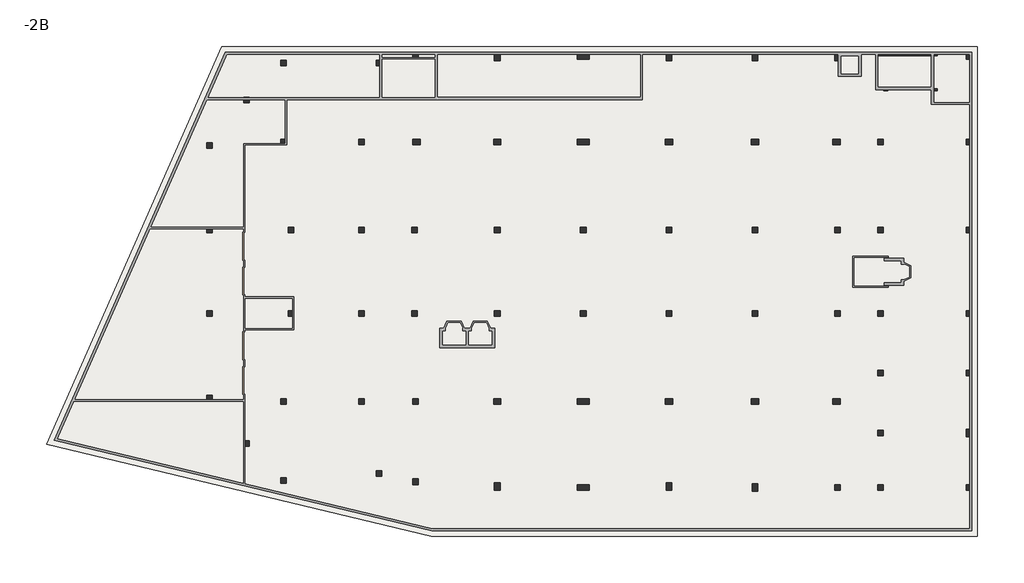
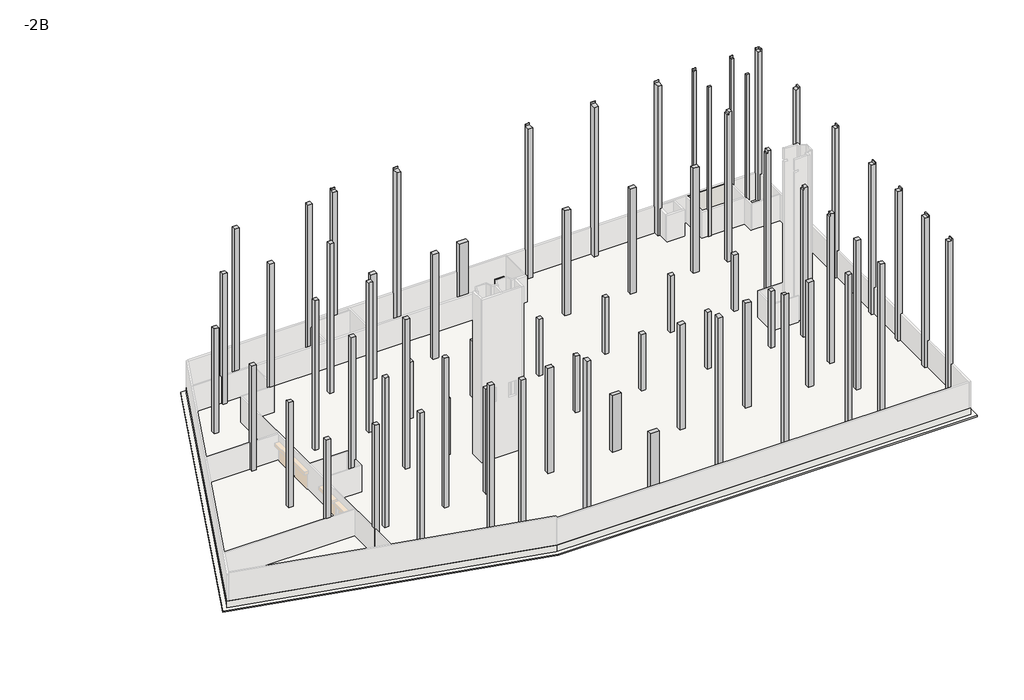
# One storey, part 2 of 2: 71 columns, 2 slabs, 1 wall.
"""IFC4 building model written with IfcOpenShell, lengths in millimetres."""

from ifc_helpers import new_model, si_unit, frame, origin, place, context, project, spatial, polyline, outline, extrude, faceted_brep, transform, mapped, element, save
from components import concrete_rectangular_column_600x600_795a6e5d, concrete_rectangular_column_600x600_80d3ca89, concrete_rectangular_column_c10_1275_x_600_91d06403

model = new_model("IFC4")

# Units and contexts
model_context = context("Model", 3, world=origin())
ifc_project = project(units=[si_unit("LENGTHUNIT", "METRE", prefix="MILLI")], contexts=[model_context])

# Site, building, storey
site = spatial("IfcSite", under=ifc_project)
building = spatial("IfcBuilding", under=site)
storey = spatial("IfcBuildingStorey", under=building, Name="-2B", Elevation=-7500.0)

# Columns
placement = place(None, origin())
element("IfcColumn", 1, ObjectType="Concrete-Rectangular-Column : 230x450", at=placement, inside=storey, context=model_context, shape_type="SweptSolid", body=[
    extrude(outline(polyline([(21247.3851347, -7500.0), (21017.3851347, -7500.0), (21017.3851347, 14725.0), (21235.3851347, 14725.0), (21235.3851347, 15000.0), (21247.3851347, 15000.0), (21247.3851347, -7500.0)])), frame((33532.4134101, 0.0, 0.0), z_axis=(1.0, 0.0, 0.0), x_axis=(0.0, 1.0, 0.0)), (0.0, 0.0, 1.0), 450.0),
])
element("IfcColumn", 2, ObjectType="Concrete-Rectangular-Column : 230x450", at=placement, inside=storey, context=model_context, shape_type="SweptSolid", body=[
    extrude(outline(polyline([(33447.4134101, 17452.3851348), (33897.4134101, 17452.3851348), (33897.4134101, 17222.3851348), (33447.4134101, 17222.3851348), (33447.4134101, 17452.3851348)])), frame((0.0, 0.0, -7500.0), z_axis=(0.0, 0.0, 1.0), x_axis=(1.0, 0.0, 0.0)), (0.0, 0.0, 1.0), 22225.0),
])
element("IfcColumn", 3, ObjectType="Concrete-Rectangular-Column : 230x450", at=placement, inside=storey, context=model_context, shape_type="SweptSolid", body=[
    extrude(outline(polyline([(21247.3851347, -7500.0), (21017.3851347, -7500.0), (21017.3851347, 14725.0), (21235.3851347, 14725.0), (21235.3851347, 15000.0), (21247.3851347, 15000.0), (21247.3851347, -7500.0)])), frame((38782.4134101, 0.0, 0.0), z_axis=(1.0, 0.0, 0.0), x_axis=(0.0, 1.0, 0.0)), (0.0, 0.0, 1.0), 450.0),
])
element("IfcColumn", 4, ObjectType="Concrete-Rectangular-Column : 230x450", at=placement, inside=storey, context=model_context, shape_type="SweptSolid", body=[
    extrude(outline(polyline([(38782.4134101, 17452.3851348), (39232.4134101, 17452.3851348), (39232.4134101, 17222.3851348), (38782.4134101, 17222.3851348), (38782.4134101, 17452.3851348)])), frame((0.0, 0.0, -7500.0), z_axis=(0.0, 0.0, 1.0), x_axis=(1.0, 0.0, 0.0)), (0.0, 0.0, 1.0), 22225.0),
])
element("IfcColumn", 5, ObjectType="Concrete-Rectangular-Column : 600x600", at=placement, inside=storey, context=model_context, shape_type="SweptSolid", body=[
    extrude(outline(polyline([(-7500.0, 42362.4134101), (-7500.0, 42962.4134101), (15000.0, 42962.4134101), (15000.0, 42824.4134101), (14725.0, 42824.4134101), (14725.0, 42362.4134101), (-7500.0, 42362.4134101)])), frame((0.0, -13522.6148653, 0.0), z_axis=(0.0, 1.0, 0.0), x_axis=(0.0, 0.0, 1.0)), (0.0, 0.0, 1.0), 600.0),
])
element("IfcColumn", 6, ObjectType="Concrete-Rectangular-Column : 600x600", at=placement, inside=storey, context=model_context, shape_type="SweptSolid", body=[
    extrude(outline(polyline([(-7500.0, 42362.4134101), (-7500.0, 42962.4134101), (15000.0, 42962.4134101), (15000.0, 42824.4134101), (14725.0, 42824.4134101), (14725.0, 42362.4134101), (-7500.0, 42362.4134101)])), frame((0.0, -7072.6148653, 0.0), z_axis=(0.0, 1.0, 0.0), x_axis=(0.0, 0.0, 1.0)), (0.0, 0.0, 1.0), 600.0),
])
element("IfcColumn", 7, ObjectType="Concrete-Rectangular-Column : 600x600", at=placement, inside=storey, context=model_context, shape_type="SweptSolid", body=[
    extrude(outline(polyline([(-7500.0, 42362.4134101), (-7500.0, 42962.4134101), (15000.0, 42962.4134101), (15000.0, 42824.4134101), (14725.0, 42824.4134101), (14725.0, 42362.4134101), (-7500.0, 42362.4134101)])), frame((0.0, 1897.3851347, 0.0), z_axis=(0.0, 1.0, 0.0), x_axis=(0.0, 0.0, 1.0)), (0.0, 0.0, 1.0), 600.0),
])
element("IfcColumn", 8, ObjectType="Concrete-Rectangular-Column : 600x600", at=placement, inside=storey, context=model_context, shape_type="SweptSolid", body=[
    extrude(outline(polyline([(-7500.0, 42362.4134101), (-7500.0, 42962.4134101), (15000.0, 42962.4134101), (15000.0, 42824.4134101), (14725.0, 42824.4134101), (14725.0, 42362.4134101), (-7500.0, 42362.4134101)])), frame((0.0, 11397.3851347, 0.0), z_axis=(0.0, 1.0, 0.0), x_axis=(0.0, 0.0, 1.0)), (0.0, 0.0, 1.0), 600.0),
])
element("IfcColumn", 9, ObjectType="Concrete-Rectangular-Column : 600x600", at=placement, inside=storey, context=model_context, shape_type="Brep", body=[
    faceted_brep([(33387.4134101, -12922.6148653, -7500.0), (33387.4134101, -13522.6148653, -7500.0), (32787.4134101, -13522.6148653, -7500.0), (32787.4134101, -12922.6148653, -7500.0), (32787.4134101, -12922.6148653, 14375.0), (32950.4134101, -12922.6148653, 14375.0), (32950.4134101, -12922.6148653, 14725.0), (32962.4134101, -12922.6148653, 14725.0), (33312.4134101, -12922.6148653, 14725.0), (33387.4134101, -12922.6148653, 14725.0), (32787.4134101, -13522.6148653, 14375.0), (33387.4134101, -13522.6148653, 14725.0), (33312.4134101, -13522.6148653, 14725.0), (32962.4134101, -13522.6148653, 14725.0), (32950.4134101, -13522.6148653, 14725.0), (32950.4134101, -13522.6148653, 14375.0)], [[[0, 1, 2, 3]], [[0, 3, 4, 5, 6, 7, 8, 9]], [[3, 2, 10, 4]], [[2, 1, 11, 12, 13, 14, 15, 10]], [[1, 0, 9, 11]], [[9, 8, 7, 6, 14, 13, 12, 11]], [[5, 15, 14, 6]], [[15, 5, 4, 10]]]),
])
element("IfcColumn", 10, ObjectType="Concrete-Rectangular-Column : 600x600", at=placement, inside=storey, context=model_context, shape_type="Brep", body=[
    faceted_brep([(33387.4134101, -6472.6148653, -7500.0), (33387.4134101, -7072.6148653, -7500.0), (32787.4134101, -7072.6148653, -7500.0), (32787.4134101, -6472.6148653, -7500.0), (32787.4134101, -6472.6148653, 14375.0), (32950.4134101, -6472.6148653, 14375.0), (32950.4134101, -6472.6148653, 14725.0), (32962.4134101, -6472.6148653, 14725.0), (33312.4134101, -6472.6148653, 14725.0), (33387.4134101, -6472.6148653, 14725.0), (32787.4134101, -7072.6148653, 14375.0), (33387.4134101, -7072.6148653, 14725.0), (33312.4134101, -7072.6148653, 14725.0), (32962.4134101, -7072.6148653, 14725.0), (32950.4134101, -7072.6148653, 14725.0), (32950.4134101, -7072.6148653, 14375.0)], [[[0, 1, 2, 3]], [[0, 3, 4, 5, 6, 7, 8, 9]], [[3, 2, 10, 4]], [[2, 1, 11, 12, 13, 14, 15, 10]], [[1, 0, 9, 11]], [[9, 8, 7, 6, 14, 13, 12, 11]], [[5, 15, 14, 6]], [[15, 5, 4, 10]]]),
])
element("IfcColumn", 11, ObjectType="Concrete-Rectangular-Column : 600x600", at=placement, inside=storey, context=model_context, shape_type="Brep", body=[
    faceted_brep([(33387.4134101, 11997.3851347, -7500.0), (33387.4134101, 11397.3851347, -7500.0), (32787.4134101, 11397.3851347, -7500.0), (32787.4134101, 11997.3851347, -7500.0), (32787.4134101, 11997.3851347, 14375.0), (32950.4134101, 11997.3851347, 14375.0), (32950.4134101, 11997.3851347, 14725.0), (32962.4134101, 11997.3851347, 14725.0), (33312.4134101, 11997.3851347, 14725.0), (33387.4134101, 11997.3851347, 14725.0), (32787.4134101, 11397.3851347, 14375.0), (33387.4134101, 11397.3851347, 14725.0), (33312.4134101, 11397.3851347, 14725.0), (32962.4134101, 11397.3851347, 14725.0), (32950.4134101, 11397.3851347, 14725.0), (32950.4134101, 11397.3851347, 14375.0)], [[[0, 1, 2, 3]], [[0, 3, 4, 5, 6, 7, 8, 9]], [[3, 2, 10, 4]], [[2, 1, 11, 12, 13, 14, 15, 10]], [[1, 0, 9, 11]], [[9, 8, 7, 6, 14, 13, 12, 11]], [[5, 15, 14, 6]], [[15, 5, 4, 10]]]),
])
element("IfcColumn", 12, ObjectType="Concrete-Rectangular-Column : 600x600", at=placement, inside=storey, context=model_context, shape_type="SweptSolid", body=[
    extrude(outline(polyline([(28787.4134101, -6472.6148653), (28787.4134101, -7072.6148653), (28187.4134101, -7072.6148653), (28187.4134101, -6472.6148653), (28787.4134101, -6472.6148653)])), frame((0.0, 0.0, -7500.0), z_axis=(0.0, 0.0, 1.0), x_axis=(1.0, 0.0, 0.0)), (0.0, 0.0, 1.0), 8400.0),
])
element("IfcColumn", 13, ObjectType="Concrete-Rectangular-Column : 600x600", at=placement, inside=storey, context=model_context, shape_type="SweptSolid", body=[
    extrude(outline(polyline([(28787.4134101, 2497.3851347), (28787.4134101, 1897.3851347), (28187.4134101, 1897.3851347), (28187.4134101, 2497.3851347), (28787.4134101, 2497.3851347)])), frame((0.0, 0.0, -7500.0), z_axis=(0.0, 0.0, 1.0), x_axis=(1.0, 0.0, 0.0)), (0.0, 0.0, 1.0), 8400.0),
])
element("IfcColumn", 14, ObjectType="Concrete-Rectangular-Column : 600x600", at=placement, inside=storey, context=model_context, shape_type="SweptSolid", body=[
    extrude(outline(polyline([(19857.4134101, -6472.6148653), (19857.4134101, -7072.6148653), (19257.4134101, -7072.6148653), (19257.4134101, -6472.6148653), (19857.4134101, -6472.6148653)])), frame((0.0, 0.0, -7500.0), z_axis=(0.0, 0.0, 1.0), x_axis=(1.0, 0.0, 0.0)), (0.0, 0.0, 1.0), 8400.0),
])
element("IfcColumn", 15, ObjectType="Concrete-Rectangular-Column : 600x600", at=placement, inside=storey, context=model_context, shape_type="SweptSolid", body=[
    extrude(outline(polyline([(19857.4134101, 2497.3851347), (19857.4134101, 1897.3851347), (19257.4134101, 1897.3851347), (19257.4134101, 2497.3851347), (19857.4134101, 2497.3851347)])), frame((0.0, 0.0, -7500.0), z_axis=(0.0, 0.0, 1.0), x_axis=(1.0, 0.0, 0.0)), (0.0, 0.0, 1.0), 8400.0),
])
element("IfcColumn", 16, ObjectType="Concrete-Rectangular-Column : 600x600", at=placement, inside=storey, context=model_context, shape_type="SweptSolid", body=[
    extrude(outline(polyline([(10627.4134101, 2497.3851347), (10627.4134101, 1897.3851347), (10027.4134101, 1897.3851347), (10027.4134101, 2497.3851347), (10627.4134101, 2497.3851347)])), frame((0.0, 0.0, -7500.0), z_axis=(0.0, 0.0, 1.0), x_axis=(1.0, 0.0, 0.0)), (0.0, 0.0, 1.0), 8400.0),
])
element("IfcColumn", 17, ObjectType="Concrete-Rectangular-Column : 600x600", at=placement, inside=storey, context=model_context, shape_type="SweptSolid", body=[
    extrude(outline(polyline([(-16722.5865899, -24622.6148653), (-16722.5865899, -25222.6148653), (-17322.5865899, -25222.6148653), (-17322.5865899, -24622.6148653), (-16722.5865899, -24622.6148653)])), frame((0.0, 0.0, -7500.0), z_axis=(0.0, 0.0, 1.0), x_axis=(1.0, 0.0, 0.0)), (0.0, 0.0, 1.0), 22225.0),
])
element("IfcColumn", 18, ObjectType="Concrete-Rectangular-Column : 600x600", at=placement, inside=storey, context=model_context, shape_type="Brep", body=[
    faceted_brep([(-16722.5865899, -15972.6148653, 8100.0), (-17322.5865899, -15972.6148653, 8100.0), (-17322.5865899, -16322.6148653, 8100.0), (-17322.5865899, -16572.6148653, 8100.0), (-16722.5865899, -16572.6148653, 8100.0), (-16722.5865899, -16322.6148653, 8100.0), (-16722.5865899, -15972.6148653, -7500.0), (-16722.5865899, -16572.6148653, -7500.0), (-17322.5865899, -16572.6148653, -7500.0), (-17322.5865899, -15972.6148653, -7500.0), (-16722.5865899, -15972.6148653, 7550.0), (-17322.5865899, -15972.6148653, 7550.0)], [[[0, 1, 2, 3, 4, 5]], [[6, 7, 8, 9]], [[1, 0, 10, 6, 9, 11]], [[3, 2, 1, 11, 9, 8]], [[4, 3, 8, 7]], [[0, 5, 4, 7, 6, 10]]]),
])
element("IfcColumn", 19, ObjectType="Concrete-Rectangular-Column : 600x600", at=placement, inside=storey, context=model_context, shape_type="SweptSolid", body=[
    extrude(outline(polyline([(21267.3851347, -7500.0), (20667.3851347, -7500.0), (20667.3851347, 14725.0), (21235.3851347, 14725.0), (21235.3851347, 15000.0), (21267.3851347, 15000.0), (21267.3851347, -7500.0)])), frame((-17322.5865899, 0.0, 0.0), z_axis=(1.0, 0.0, 0.0), x_axis=(0.0, 1.0, 0.0)), (0.0, 0.0, 1.0), 600.0),
])
element("IfcColumn", 20, ObjectType="Concrete-Rectangular-Column : 600x600", at=placement, inside=storey, context=model_context, shape_type="SweptSolid", body=[
    extrude(outline(polyline([(-20652.5865899, -23747.6148653), (-20652.5865899, -24347.6148653), (-21252.5865899, -24347.6148653), (-21252.5865899, -23747.6148653), (-20652.5865899, -23747.6148653)])), frame((0.0, 0.0, -7500.0), z_axis=(0.0, 0.0, 1.0), x_axis=(1.0, 0.0, 0.0)), (0.0, 0.0, 1.0), 22225.0),
])
element("IfcColumn", 21, ObjectType="Concrete-Rectangular-Column : 600x600", at=placement, inside=storey, context=model_context, shape_type="Brep", body=[
    faceted_brep([(-22537.5865899, 11997.3851347, -7500.0), (-22537.5865899, 11397.3851347, -7500.0), (-23137.5865899, 11397.3851347, -7500.0), (-23137.5865899, 11997.3851347, -7500.0), (-23137.5865899, 11997.3851347, 14725.0), (-22887.5865899, 11997.3851347, 14725.0), (-22537.5865899, 11997.3851347, 14725.0), (-22537.5865899, 11997.3851347, 14375.0), (-23137.5865899, 11397.3851347, 14725.0), (-22537.5865899, 11397.3851347, 14375.0), (-22537.5865899, 11397.3851347, 14725.0), (-22887.5865899, 11397.3851347, 14725.0)], [[[0, 1, 2, 3]], [[0, 3, 4, 5, 6, 7]], [[3, 2, 8, 4]], [[2, 1, 9, 10, 11, 8]], [[1, 0, 7, 6, 10, 9]], [[6, 5, 4, 8, 11, 10]]]),
])
element("IfcColumn", 22, ObjectType="Concrete-Rectangular-Column : 600x600", at=placement, inside=storey, context=model_context, shape_type="SweptSolid", body=[
    extrude(outline(polyline([(-20652.5865899, 20522.3851347), (-20652.5865899, 19922.3851347), (-21252.5865899, 19922.3851347), (-21252.5865899, 20522.3851347), (-20652.5865899, 20522.3851347)])), frame((0.0, 0.0, -7500.0), z_axis=(0.0, 0.0, 1.0), x_axis=(1.0, 0.0, 0.0)), (0.0, 0.0, 1.0), 22225.0),
])
element("IfcColumn", 23, ObjectType="Concrete-Rectangular-Column : 600x600", at=placement, inside=storey, context=model_context, shape_type="Brep", body=[
    faceted_brep([(-22537.5865899, -15972.6148653, -7500.0), (-22537.5865899, -16572.6148653, -7500.0), (-23137.5865899, -16572.6148653, -7500.0), (-23137.5865899, -15972.6148653, -7500.0), (-23137.5865899, -15972.6148653, 14725.0), (-22887.5865899, -15972.6148653, 14725.0), (-22537.5865899, -15972.6148653, 14725.0), (-22537.5865899, -15972.6148653, 14375.0), (-23137.5865899, -16572.6148653, 14725.0), (-22537.5865899, -16572.6148653, 14375.0), (-22537.5865899, -16572.6148653, 14725.0), (-22887.5865899, -16572.6148653, 14725.0)], [[[0, 1, 2, 3]], [[0, 3, 4, 5, 6, 7]], [[3, 2, 8, 4]], [[2, 1, 9, 10, 11, 8]], [[1, 0, 7, 6, 10, 9]], [[6, 5, 4, 8, 11, 10]]]),
])
element("IfcColumn", 24, ObjectType="Concrete-Rectangular-Column : 600x600", at=placement, inside=storey, context=model_context, shape_type="Brep", body=[
    faceted_brep([(-22537.5865899, -6472.6148653, -7500.0), (-22537.5865899, -7072.6148653, -7500.0), (-23137.5865899, -7072.6148653, -7500.0), (-23137.5865899, -6472.6148653, -7500.0), (-23137.5865899, -6472.6148653, 14725.0), (-22887.5865899, -6472.6148653, 14725.0), (-22537.5865899, -6472.6148653, 14725.0), (-22537.5865899, -6472.6148653, 14375.0), (-23137.5865899, -7072.6148653, 14725.0), (-22537.5865899, -7072.6148653, 14375.0), (-22537.5865899, -7072.6148653, 14725.0), (-22887.5865899, -7072.6148653, 14725.0)], [[[0, 1, 2, 3]], [[0, 3, 4, 5, 6, 7]], [[3, 2, 8, 4]], [[2, 1, 9, 10, 11, 8]], [[1, 0, 7, 6, 10, 9]], [[6, 5, 4, 8, 11, 10]]]),
])
element("IfcColumn", 25, ObjectType="Concrete-Rectangular-Column : 600x600", at=placement, inside=storey, context=model_context, shape_type="Brep", body=[
    faceted_brep([(-22537.5865899, 2497.3851347, -7500.0), (-22537.5865899, 1897.3851347, -7500.0), (-23137.5865899, 1897.3851347, -7500.0), (-23137.5865899, 2497.3851347, -7500.0), (-23137.5865899, 2497.3851347, 14725.0), (-22887.5865899, 2497.3851347, 14725.0), (-22537.5865899, 2497.3851347, 14725.0), (-22537.5865899, 2497.3851347, 14375.0), (-23137.5865899, 1897.3851347, 14725.0), (-22537.5865899, 1897.3851347, 14375.0), (-22537.5865899, 1897.3851347, 14725.0), (-22887.5865899, 1897.3851347, 14725.0)], [[[0, 1, 2, 3]], [[0, 3, 4, 5, 6, 7]], [[3, 2, 8, 4]], [[2, 1, 9, 10, 11, 8]], [[1, 0, 7, 6, 10, 9]], [[6, 5, 4, 8, 11, 10]]]),
])
element("IfcColumn", 26, ObjectType="Concrete-Rectangular-Column : 600x600", at=placement, inside=storey, context=model_context, shape_type="SweptSolid", body=[
    extrude(outline(polyline([(-30937.5865899, -24497.6148653), (-30937.5865899, -25097.6148653), (-31537.5865899, -25097.6148653), (-31537.5865899, -24497.6148653), (-30937.5865899, -24497.6148653)])), frame((0.0, 0.0, -7500.0), z_axis=(0.0, 0.0, 1.0), x_axis=(1.0, 0.0, 0.0)), (0.0, 0.0, 1.0), 22225.0),
])
element("IfcColumn", 27, ObjectType="Concrete-Rectangular-Column : 600x600", at=placement, inside=storey, context=model_context, shape_type="SweptSolid", body=[
    extrude(outline(polyline([(-30937.5865899, -15972.6148653), (-30937.5865899, -16572.6148653), (-31537.5865899, -16572.6148653), (-31537.5865899, -15972.6148653), (-30937.5865899, -15972.6148653)])), frame((0.0, 0.0, -7500.0), z_axis=(0.0, 0.0, 1.0), x_axis=(1.0, 0.0, 0.0)), (0.0, 0.0, 1.0), 22225.0),
])
element("IfcColumn", 28, ObjectType="Concrete-Rectangular-Column : 600x600", at=placement, inside=storey, context=model_context, shape_type="SweptSolid", body=[
    extrude(outline(polyline([(-30137.5865899, -6472.6148653), (-30137.5865899, -7072.6148653), (-30737.5865899, -7072.6148653), (-30737.5865899, -6472.6148653), (-30137.5865899, -6472.6148653)])), frame((0.0, 0.0, -7500.0), z_axis=(0.0, 0.0, 1.0), x_axis=(1.0, 0.0, 0.0)), (0.0, 0.0, 1.0), 22225.0),
])
element("IfcColumn", 29, ObjectType="Concrete-Rectangular-Column : 600x600", at=placement, inside=storey, context=model_context, shape_type="SweptSolid", body=[
    extrude(outline(polyline([(-30137.5865899, 2497.3851347), (-30137.5865899, 1897.3851347), (-30737.5865899, 1897.3851347), (-30737.5865899, 2497.3851347), (-30137.5865899, 2497.3851347)])), frame((0.0, 0.0, -7500.0), z_axis=(0.0, 0.0, 1.0), x_axis=(1.0, 0.0, 0.0)), (0.0, 0.0, 1.0), 22225.0),
])
element("IfcColumn", 30, ObjectType="Concrete-Rectangular-Column : 600x600", at=placement, inside=storey, context=model_context, shape_type="SweptSolid", body=[
    extrude(outline(polyline([(-30937.5865899, 11997.3851347), (-30937.5865899, 11397.3851347), (-31537.5865899, 11397.3851347), (-31537.5865899, 11997.3851347), (-30937.5865899, 11997.3851347)])), frame((0.0, 0.0, -7500.0), z_axis=(0.0, 0.0, 1.0), x_axis=(1.0, 0.0, 0.0)), (0.0, 0.0, 1.0), 22225.0),
])
element("IfcColumn", 31, ObjectType="Concrete-Rectangular-Column : 600x600", at=placement, inside=storey, context=model_context, shape_type="SweptSolid", body=[
    extrude(outline(polyline([(-30937.5865899, 20522.3851347), (-30937.5865899, 19922.3851347), (-31537.5865899, 19922.3851347), (-31537.5865899, 20522.3851347), (-30937.5865899, 20522.3851347)])), frame((0.0, 0.0, -7500.0), z_axis=(0.0, 0.0, 1.0), x_axis=(1.0, 0.0, 0.0)), (0.0, 0.0, 1.0), 22225.0),
])
element("IfcColumn", 32, ObjectType="Concrete-Rectangular-Column : 600x600", at=placement, inside=storey, context=model_context, shape_type="SweptSolid", body=[
    extrude(outline(polyline([(-34937.5865899, -20497.6148653), (-34937.5865899, -21097.6148653), (-35537.5865899, -21097.6148653), (-35537.5865899, -20497.6148653), (-34937.5865899, -20497.6148653)])), frame((0.0, 0.0, -7500.0), z_axis=(0.0, 0.0, 1.0), x_axis=(1.0, 0.0, 0.0)), (0.0, 0.0, 1.0), 19350.0),
])
element("IfcColumn", 33, ObjectType="Concrete-Rectangular-Column : 600x600", at=placement, inside=storey, context=model_context, shape_type="SweptSolid", body=[
    extrude(outline(polyline([(-34937.5865899, 16522.3851347), (-34937.5865899, 15922.3851347), (-35537.5865899, 15922.3851347), (-35537.5865899, 16522.3851347), (-34937.5865899, 16522.3851347)])), frame((0.0, 0.0, -7500.0), z_axis=(0.0, 0.0, 1.0), x_axis=(1.0, 0.0, 0.0)), (0.0, 0.0, 1.0), 19350.0),
])
element("IfcColumn", 34, ObjectType="Concrete-Rectangular-Column : 600x600", at=placement, inside=storey, context=model_context, shape_type="SweptSolid", body=[
    extrude(outline(polyline([(33387.4134101, -19372.6148653), (33387.4134101, -19972.6148653), (32787.4134101, -19972.6148653), (32787.4134101, -19372.6148653), (33387.4134101, -19372.6148653)])), frame((0.0, 0.0, -7500.0), z_axis=(0.0, 0.0, 1.0), x_axis=(1.0, 0.0, 0.0)), (0.0, 0.0, 1.0), 22225.0),
])
element("IfcColumn", 35, ObjectType="Concrete-Rectangular-Column : 600x600", at=placement, inside=storey, context=model_context, shape_type="Brep", body=[
    faceted_brep([(33387.4134101, 2497.3851347, -7500.0), (33387.4134101, 1897.3851347, -7500.0), (32787.4134101, 1897.3851347, -7500.0), (32787.4134101, 2497.3851347, -7500.0), (32787.4134101, 2497.3851347, 14375.0), (32950.4134101, 2497.3851347, 14375.0), (32950.4134101, 2497.3851347, 14725.0), (32962.4134101, 2497.3851347, 14725.0), (33312.4134101, 2497.3851347, 14725.0), (33387.4134101, 2497.3851347, 14725.0), (32787.4134101, 1897.3851347, 900.0), (32787.4134101, 1897.3851347, 4375.0), (32787.4134101, 1897.3851347, 14375.0), (33387.4134101, 1897.3851347, 900.0), (33387.4134101, 1897.3851347, 4375.0), (33387.4134101, 1897.3851347, 14725.0), (33312.4134101, 1897.3851347, 14725.0), (32962.4134101, 1897.3851347, 14725.0), (32950.4134101, 1897.3851347, 14725.0), (32950.4134101, 1897.3851347, 14375.0)], [[[0, 1, 2, 3]], [[0, 3, 4, 5, 6, 7, 8, 9]], [[3, 2, 10, 11, 12, 4]], [[2, 1, 13, 14, 15, 16, 17, 18, 19, 12, 11, 10]], [[1, 0, 9, 15, 14, 13]], [[9, 8, 7, 6, 18, 17, 16, 15]], [[5, 19, 18, 6]], [[19, 5, 4, 12]]]),
])
concrete_rectangular_column_600x600_shape = concrete_rectangular_column_600x600_795a6e5d(model_context)
element("IfcColumn", 36, ObjectType="Concrete-Rectangular-Column : 600x600", at=placement, inside=storey, context=model_context, shape_type="MappedRepresentation", body=[
    mapped(concrete_rectangular_column_600x600_shape, transform((10327.4134101, -6772.6148653, 0.0), x_axis=(1.0, 0.0, 0.0), y_axis=(0.0, 1.0, 0.0), z_axis=(0.0, 0.0, 1.0))),
])
element("IfcColumn", 37, ObjectType="Concrete-Rectangular-Column : 600x600", at=placement, inside=storey, context=model_context, shape_type="MappedRepresentation", body=[
    mapped(concrete_rectangular_column_600x600_shape, transform((-8207.5865899, -6772.6148653, 0.0), x_axis=(1.0, 0.0, 0.0), y_axis=(0.0, 1.0, 0.0), z_axis=(0.0, 0.0, 1.0))),
])
element("IfcColumn", 38, ObjectType="Concrete-Rectangular-Column : 600x600", at=placement, inside=storey, context=model_context, shape_type="MappedRepresentation", body=[
    mapped(concrete_rectangular_column_600x600_shape, transform((-8207.5865899, 2197.3851347, 0.0), x_axis=(1.0, 0.0, 0.0), y_axis=(0.0, 1.0, 0.0), z_axis=(0.0, 0.0, 1.0))),
])
element("IfcColumn", 39, ObjectType="Concrete-Rectangular-Column : 600x600", at=placement, inside=storey, context=model_context, shape_type="MappedRepresentation", body=[
    mapped(concrete_rectangular_column_600x600_shape, transform((-17137.5865899, 2197.3851347, 0.0), x_axis=(1.0, 0.0, 0.0), y_axis=(0.0, 1.0, 0.0), z_axis=(0.0, 0.0, 1.0))),
])
element("IfcColumn", 40, ObjectType="Concrete-Rectangular-Column : 600x600", at=placement, inside=storey, context=model_context, shape_type="MappedRepresentation", body=[
    mapped(concrete_rectangular_column_600x600_shape, transform((-17137.5865899, -6772.6148653, 0.0), x_axis=(1.0, 0.0, 0.0), y_axis=(0.0, 1.0, 0.0), z_axis=(0.0, 0.0, 1.0))),
])
element("IfcColumn", 41, ObjectType="Concrete-Rectangular-Column : 600x600", at=placement, inside=storey, context=model_context, shape_type="MappedRepresentation", body=[
    mapped(concrete_rectangular_column_600x600_shape, transform((1059.9134101, -6772.6148653, 0.0), x_axis=(1.0, 0.0, 0.0), y_axis=(0.0, 1.0, 0.0), z_axis=(0.0, 0.0, 1.0))),
])
element("IfcColumn", 42, ObjectType="Concrete-Rectangular-Column : 600x600", at=placement, inside=storey, context=model_context, shape_type="MappedRepresentation", body=[
    mapped(concrete_rectangular_column_600x600_shape, transform((1059.9134101, 2197.3851347, 0.0), x_axis=(1.0, 0.0, 0.0), y_axis=(0.0, 1.0, 0.0), z_axis=(0.0, 0.0, 1.0))),
])
concrete_rectangular_column_600x600_2_shape = concrete_rectangular_column_600x600_80d3ca89(model_context)
element("IfcColumn", 43, ObjectType="Concrete-Rectangular-Column : 600x600", at=placement, inside=storey, context=model_context, shape_type="MappedRepresentation", body=[
    mapped(concrete_rectangular_column_600x600_2_shape, transform((-39237.5865899, -15922.6148653, 0.0), x_axis=(1.0, 0.0, 0.0), y_axis=(0.0, 1.0, 0.0), z_axis=(0.0, 0.0, 1.0))),
])
element("IfcColumn", 44, ObjectType="Concrete-Rectangular-Column : 600x600", at=placement, inside=storey, context=model_context, shape_type="MappedRepresentation", body=[
    mapped(concrete_rectangular_column_600x600_2_shape, transform((-39237.5865899, -6772.6148653, 0.0), x_axis=(1.0, 0.0, 0.0), y_axis=(0.0, 1.0, 0.0), z_axis=(0.0, 0.0, 1.0))),
])
element("IfcColumn", 45, ObjectType="Concrete-Rectangular-Column : 600x600", at=placement, inside=storey, context=model_context, shape_type="MappedRepresentation", body=[
    mapped(concrete_rectangular_column_600x600_2_shape, transform((-39237.5865899, 2197.3851347, 0.0), x_axis=(1.0, 0.0, 0.0), y_axis=(0.0, 1.0, 0.0), z_axis=(0.0, 0.0, 1.0))),
])
element("IfcColumn", 46, ObjectType="Concrete-Rectangular-Column : 600x600", at=placement, inside=storey, context=model_context, shape_type="MappedRepresentation", body=[
    mapped(concrete_rectangular_column_600x600_2_shape, transform((-39237.5865899, 11347.3851348, 0.0), x_axis=(1.0, 0.0, 0.0), y_axis=(0.0, 1.0, 0.0), z_axis=(0.0, 0.0, 1.0))),
])
element("IfcColumn", 47, ObjectType="Concrete-Rectangular-Column : C-17_600 x 800", at=placement, inside=storey, context=model_context, shape_type="Brep", body=[
    faceted_brep([(27987.4134101, -15972.6148653, 8100.0), (27987.4134101, -15984.6148653, 8100.0), (27987.4134101, -16572.6148653, 8100.0), (28787.4134101, -16572.6148653, 8100.0), (28787.4134101, -15984.6148653, 8100.0), (28787.4134101, -15972.6148653, 8100.0), (27987.4134101, -15972.6148653, -7500.0), (28787.4134101, -15972.6148653, -7500.0), (28787.4134101, -16572.6148653, -7500.0), (27987.4134101, -16572.6148653, -7500.0), (27987.4134101, -15972.6148653, 7550.0), (28787.4134101, -15972.6148653, 7550.0)], [[[0, 1, 2, 3, 4, 5]], [[6, 7, 8, 9]], [[2, 1, 0, 10, 6, 9]], [[3, 2, 9, 8]], [[5, 4, 3, 8, 7, 11]], [[0, 5, 11, 7, 6, 10]]]),
])
element("IfcColumn", 48, ObjectType="Concrete-Rectangular-Column : C-17_600 x 800", at=placement, inside=storey, context=model_context, shape_type="Brep", body=[
    faceted_brep([(27987.4134101, 11997.3851347, 8100.0), (27987.4134101, 11409.3851347, 8100.0), (27987.4134101, 11397.3851347, 8100.0), (28787.4134101, 11397.3851347, 8100.0), (28787.4134101, 11409.3851347, 8100.0), (28787.4134101, 11997.3851347, 8100.0), (27987.4134101, 11997.3851347, -7500.0), (28787.4134101, 11997.3851347, -7500.0), (28787.4134101, 11397.3851347, -7500.0), (27987.4134101, 11397.3851347, -7500.0), (27987.4134101, 11397.3851347, 7550.0), (28787.4134101, 11397.3851347, 900.0), (28787.4134101, 11397.3851347, 4650.0), (28787.4134101, 11397.3851347, 7550.0), (28787.4134101, 11997.3851347, 900.0), (28787.4134101, 11997.3851347, 4650.0)], [[[0, 1, 2, 3, 4, 5]], [[6, 7, 8, 9]], [[2, 1, 0, 6, 9, 10]], [[3, 2, 10, 9, 8, 11, 12, 13]], [[5, 4, 3, 13, 12, 11, 8, 7, 14, 15]], [[0, 5, 15, 14, 7, 6]]]),
])
element("IfcColumn", 49, ObjectType="Concrete-Rectangular-Column : C-17_600 x 800", at=placement, inside=storey, context=model_context, shape_type="Brep", body=[
    faceted_brep([(19157.4134101, -15972.6148653, 8100.0), (19157.4134101, -16572.6148653, 8100.0), (19957.4134101, -16572.6148653, 8100.0), (19957.4134101, -15984.6148653, 8100.0), (19957.4134101, -15972.6148653, 8100.0), (19157.4134101, -15972.6148653, -7500.0), (19957.4134101, -15972.6148653, -7500.0), (19957.4134101, -16572.6148653, -7500.0), (19157.4134101, -16572.6148653, -7500.0), (19157.4134101, -15972.6148653, 7825.0), (19157.4134101, -15972.6148653, 7550.0), (19957.4134101, -15972.6148653, 7550.0)], [[[0, 1, 2, 3, 4]], [[5, 6, 7, 8]], [[1, 0, 9, 10, 5, 8]], [[2, 1, 8, 7]], [[4, 3, 2, 7, 6, 11]], [[0, 4, 11, 6, 5, 10, 9]]]),
])
element("IfcColumn", 50, ObjectType="Concrete-Rectangular-Column : C-17_600 x 800", at=placement, inside=storey, context=model_context, shape_type="Brep", body=[
    faceted_brep([(19157.4134101, 11997.3851347, 8100.0), (19157.4134101, 11397.3851347, 8100.0), (19957.4134101, 11397.3851347, 8100.0), (19957.4134101, 11409.3851347, 8100.0), (19957.4134101, 11997.3851347, 8100.0), (19157.4134101, 11997.3851347, -7500.0), (19957.4134101, 11997.3851347, -7500.0), (19957.4134101, 11397.3851347, -7500.0), (19157.4134101, 11397.3851347, -7500.0), (19157.4134101, 11397.3851347, 7550.0), (19157.4134101, 11397.3851347, 7825.0), (19957.4134101, 11397.3851347, 7550.0)], [[[0, 1, 2, 3, 4]], [[5, 6, 7, 8]], [[1, 0, 5, 8, 9, 10]], [[2, 1, 10, 9, 8, 7, 11]], [[4, 3, 2, 11, 7, 6]], [[0, 4, 6, 5]]]),
])
element("IfcColumn", 51, ObjectType="Concrete-Rectangular-Column : C-17_600 x 800", at=placement, inside=storey, context=model_context, shape_type="Brep", body=[
    faceted_brep([(9927.4134101, -15972.6148653, 8100.0), (9927.4134101, -15984.6148653, 8100.0), (9927.4134101, -16572.6148653, 8100.0), (10727.4134101, -16572.6148653, 8100.0), (10727.4134101, -15984.6148653, 8100.0), (10727.4134101, -15972.6148653, 8100.0), (9927.4134101, -15972.6148653, -7500.0), (10727.4134101, -15972.6148653, -7500.0), (10727.4134101, -16572.6148653, -7500.0), (9927.4134101, -16572.6148653, -7500.0), (9927.4134101, -15972.6148653, 7550.0), (10727.4134101, -15972.6148653, 7550.0)], [[[0, 1, 2, 3, 4, 5]], [[6, 7, 8, 9]], [[2, 1, 0, 10, 6, 9]], [[3, 2, 9, 8]], [[5, 4, 3, 8, 7, 11]], [[0, 5, 11, 7, 6, 10]]]),
])
element("IfcColumn", 52, ObjectType="Concrete-Rectangular-Column : C-17_600 x 800", at=placement, inside=storey, context=model_context, shape_type="Brep", body=[
    faceted_brep([(9927.4134101, 11997.3851347, 8100.0), (9927.4134101, 11409.3851347, 8100.0), (9927.4134101, 11397.3851347, 8100.0), (10727.4134101, 11397.3851347, 8100.0), (10727.4134101, 11409.3851347, 8100.0), (10727.4134101, 11997.3851347, 8100.0), (9927.4134101, 11997.3851347, -7500.0), (10727.4134101, 11997.3851347, -7500.0), (10727.4134101, 11397.3851347, -7500.0), (9927.4134101, 11397.3851347, -7500.0), (9927.4134101, 11397.3851347, 7550.0), (10727.4134101, 11397.3851347, 7550.0)], [[[0, 1, 2, 3, 4, 5]], [[6, 7, 8, 9]], [[2, 1, 0, 6, 9, 10]], [[3, 2, 10, 9, 8, 11]], [[5, 4, 3, 11, 8, 7]], [[0, 5, 7, 6]]]),
])
element("IfcColumn", 53, ObjectType="Concrete-Rectangular-Column : C-17_600 x 800", at=placement, inside=storey, context=model_context, shape_type="Brep", body=[
    faceted_brep([(-8607.5865899, -15972.6148653, 8100.0), (-8607.5865899, -16572.6148653, 8100.0), (-7807.5865899, -16572.6148653, 8100.0), (-7807.5865899, -15984.6148653, 8100.0), (-7807.5865899, -15972.6148653, 8100.0), (-8607.5865899, -15972.6148653, -7500.0), (-7807.5865899, -15972.6148653, -7500.0), (-7807.5865899, -16572.6148653, -7500.0), (-8607.5865899, -16572.6148653, -7500.0), (-8607.5865899, -15972.6148653, 7825.0), (-8607.5865899, -15972.6148653, 7550.0), (-7807.5865899, -15972.6148653, 7550.0)], [[[0, 1, 2, 3, 4]], [[5, 6, 7, 8]], [[1, 0, 9, 10, 5, 8]], [[2, 1, 8, 7]], [[4, 3, 2, 7, 6, 11]], [[0, 4, 11, 6, 5, 10, 9]]]),
])
element("IfcColumn", 54, ObjectType="Concrete-Rectangular-Column : C-17_600 x 800", at=placement, inside=storey, context=model_context, shape_type="Brep", body=[
    faceted_brep([(-8607.5865899, 11997.3851347, 8100.0), (-8607.5865899, 11409.3851347, 8100.0), (-8607.5865899, 11397.3851347, 8100.0), (-7807.5865899, 11397.3851347, 8100.0), (-7807.5865899, 11409.3851347, 8100.0), (-7807.5865899, 11997.3851347, 8100.0), (-8607.5865899, 11997.3851347, -7500.0), (-7807.5865899, 11997.3851347, -7500.0), (-7807.5865899, 11397.3851347, -7500.0), (-8607.5865899, 11397.3851347, -7500.0), (-8607.5865899, 11397.3851347, 7550.0), (-7807.5865899, 11397.3851347, 7550.0)], [[[0, 1, 2, 3, 4, 5]], [[6, 7, 8, 9]], [[2, 1, 0, 6, 9, 10]], [[3, 2, 10, 9, 8, 11]], [[5, 4, 3, 11, 8, 7]], [[0, 5, 7, 6]]]),
])
element("IfcColumn", 55, ObjectType="Concrete-Rectangular-Column : C-17_600 x 800", at=placement, inside=storey, context=model_context, shape_type="Brep", body=[
    faceted_brep([(-17322.5865899, 11997.3851347, 8100.0), (-17322.5865899, 11409.3851347, 8100.0), (-17322.5865899, 11397.3851347, 8100.0), (-16522.5865899, 11397.3851347, 8100.0), (-16522.5865899, 11409.3851347, 8100.0), (-16522.5865899, 11997.3851347, 8100.0), (-17322.5865899, 11997.3851347, -7500.0), (-16522.5865899, 11997.3851347, -7500.0), (-16522.5865899, 11397.3851347, -7500.0), (-17322.5865899, 11397.3851347, -7500.0), (-17322.5865899, 11397.3851347, 7550.0), (-16522.5865899, 11397.3851347, 7550.0)], [[[0, 1, 2, 3, 4, 5]], [[6, 7, 8, 9]], [[2, 1, 0, 6, 9, 10]], [[3, 2, 10, 9, 8, 11]], [[5, 4, 3, 11, 8, 7]], [[0, 5, 7, 6]]]),
])
element("IfcColumn", 56, ObjectType="Concrete-Rectangular-Column : C-9_600 x 600", at=placement, inside=storey, context=model_context, shape_type="Brep", body=[
    faceted_brep([(42962.4134101, 21247.3851347, 15000.0), (42362.4134101, 21247.3851347, 15000.0), (42362.4134101, 21235.3851347, 15000.0), (42824.4134101, 21235.3851347, 15000.0), (42824.4134101, 20647.3851347, 15000.0), (42962.4134101, 20647.3851347, 15000.0), (42962.4134101, 21247.3851347, -7500.0), (42962.4134101, 20647.3851347, -7500.0), (42362.4134101, 20647.3851347, -7500.0), (42362.4134101, 21247.3851347, -7500.0), (42362.4134101, 20647.3851347, 14725.0), (42362.4134101, 21235.3851347, 14725.0), (42824.4134101, 20647.3851347, 14725.0), (42824.4134101, 21235.3851347, 14725.0)], [[[0, 1, 2, 3, 4, 5]], [[6, 7, 8, 9]], [[1, 0, 6, 9]], [[9, 8, 10, 11, 2, 1]], [[8, 7, 5, 4, 12, 10]], [[0, 5, 7, 6]], [[12, 13, 11, 10]], [[13, 3, 2, 11]], [[3, 13, 12, 4]]]),
])
element("IfcColumn", 57, ObjectType="Concrete-Rectangular-Column : C10-1275 x 600", at=placement, inside=storey, context=model_context, shape_type="SweptSolid", body=[
    extrude(outline(polyline([(1697.4134101, 21247.3851347), (1697.4134101, 20647.3851347), (422.4134101, 20647.3851347), (422.4134101, 21247.3851347), (1697.4134101, 21247.3851347)])), frame((0.0, 0.0, -7500.0), z_axis=(0.0, 0.0, 1.0), x_axis=(1.0, 0.0, 0.0)), (0.0, 0.0, 1.0), 8400.0),
])
concrete_rectangular_column_c10_1275_x_600_shape = concrete_rectangular_column_c10_1275_x_600_91d06403(model_context)
element("IfcColumn", 58, ObjectType="Concrete-Rectangular-Column : C10-1275 x 600", at=placement, inside=storey, context=model_context, shape_type="MappedRepresentation", body=[
    mapped(concrete_rectangular_column_c10_1275_x_600_shape, transform((1059.9134101, -25522.6148653, 0.0), x_axis=(1.0, 0.0, 0.0), y_axis=(0.0, 1.0, 0.0), z_axis=(0.0, 0.0, 1.0))),
])
element("IfcColumn", 59, ObjectType="Concrete-Rectangular-Column : C10-1275 x 600", at=placement, inside=storey, context=model_context, shape_type="MappedRepresentation", body=[
    mapped(concrete_rectangular_column_c10_1275_x_600_shape, transform((1059.9134101, -16272.6148653, 0.0), x_axis=(1.0, 0.0, 0.0), y_axis=(0.0, 1.0, 0.0), z_axis=(0.0, 0.0, 1.0))),
])
element("IfcColumn", 60, ObjectType="Concrete-Rectangular-Column : C10-1275 x 600", at=placement, inside=storey, context=model_context, shape_type="MappedRepresentation", body=[
    mapped(concrete_rectangular_column_c10_1275_x_600_shape, transform((1059.9134101, 11697.3851347, 0.0), x_axis=(1.0, 0.0, 0.0), y_axis=(0.0, 1.0, 0.0), z_axis=(0.0, 0.0, 1.0))),
])
element("IfcColumn", 61, ObjectType="Concrete-Rectangular-Column : C11-600x600", at=placement, inside=storey, context=model_context, shape_type="SweptSolid", body=[
    extrude(outline(polyline([(-7500.0, 42362.4134101), (-7500.0, 42962.4134101), (15000.0, 42962.4134101), (15000.0, 42824.4134101), (14725.0, 42824.4134101), (14725.0, 42362.4134101), (-7500.0, 42362.4134101)])), frame((0.0, -25822.6148653, 0.0), z_axis=(0.0, 1.0, 0.0), x_axis=(0.0, 0.0, 1.0)), (0.0, 0.0, 1.0), 600.0),
])
element("IfcColumn", 62, ObjectType="Concrete-Rectangular-Column : C11-600x600", at=placement, inside=storey, context=model_context, shape_type="SweptSolid", body=[
    extrude(outline(polyline([(33387.4134101, -25222.6148653), (33387.4134101, -25822.6148653), (32787.4134101, -25822.6148653), (32787.4134101, -25222.6148653), (33387.4134101, -25222.6148653)])), frame((0.0, 0.0, -7500.0), z_axis=(0.0, 0.0, 1.0), x_axis=(1.0, 0.0, 0.0)), (0.0, 0.0, 1.0), 22225.0),
])
element("IfcColumn", 63, ObjectType="Concrete-Rectangular-Column : C11-600x600", at=placement, inside=storey, context=model_context, shape_type="SweptSolid", body=[
    extrude(outline(polyline([(28787.4134101, -25222.6148653), (28787.4134101, -25822.6148653), (28187.4134101, -25822.6148653), (28187.4134101, -25222.6148653), (28787.4134101, -25222.6148653)])), frame((0.0, 0.0, -7500.0), z_axis=(0.0, 0.0, 1.0), x_axis=(1.0, 0.0, 0.0)), (0.0, 0.0, 1.0), 22225.0),
])
element("IfcColumn", 64, ObjectType="Concrete-Rectangular-Column : C14-600x800", at=placement, inside=storey, context=model_context, shape_type="SweptSolid", body=[
    extrude(outline(polyline([(21247.3851347, -7500.0), (20447.3851347, -7500.0), (20447.3851347, 14725.0), (21235.3851347, 14725.0), (21235.3851347, 15000.0), (21247.3851347, 15000.0), (21247.3851347, -7500.0)])), frame((28187.4134101, 0.0, 0.0), z_axis=(1.0, 0.0, 0.0), x_axis=(0.0, 1.0, 0.0)), (0.0, 0.0, 1.0), 600.0),
])
element("IfcColumn", 65, ObjectType="Concrete-Rectangular-Column : C14-600x800", at=placement, inside=storey, context=model_context, shape_type="SweptSolid", body=[
    extrude(outline(polyline([(-25122.6148653, -7500.0), (-25922.6148653, -7500.0), (-25922.6148653, 15000.0), (-25834.6148653, 15000.0), (-25834.6148653, 14725.0), (-25122.6148653, 14725.0), (-25122.6148653, -7500.0)])), frame((19257.4134101, 0.0, 0.0), z_axis=(1.0, 0.0, 0.0), x_axis=(0.0, 1.0, 0.0)), (0.0, 0.0, 1.0), 600.0),
])
element("IfcColumn", 66, ObjectType="Concrete-Rectangular-Column : C14-600x800", at=placement, inside=storey, context=model_context, shape_type="SweptSolid", body=[
    extrude(outline(polyline([(21247.3851347, -7500.0), (20447.3851347, -7500.0), (20447.3851347, 14725.0), (21235.3851347, 14725.0), (21235.3851347, 15000.0), (21247.3851347, 15000.0), (21247.3851347, -7500.0)])), frame((19257.4134101, 0.0, 0.0), z_axis=(1.0, 0.0, 0.0), x_axis=(0.0, 1.0, 0.0)), (0.0, 0.0, 1.0), 600.0),
])
element("IfcColumn", 67, ObjectType="Concrete-Rectangular-Column : C14-600x800", at=placement, inside=storey, context=model_context, shape_type="SweptSolid", body=[
    extrude(outline(polyline([(10627.4134101, -25022.6148653), (10627.4134101, -25822.6148653), (10027.4134101, -25822.6148653), (10027.4134101, -25022.6148653), (10627.4134101, -25022.6148653)])), frame((0.0, 0.0, -7500.0), z_axis=(0.0, 0.0, 1.0), x_axis=(1.0, 0.0, 0.0)), (0.0, 0.0, 1.0), 22225.0),
])
element("IfcColumn", 68, ObjectType="Concrete-Rectangular-Column : C14-600x800", at=placement, inside=storey, context=model_context, shape_type="SweptSolid", body=[
    extrude(outline(polyline([(21247.3851347, -7500.0), (20447.3851347, -7500.0), (20447.3851347, 14725.0), (21235.3851347, 14725.0), (21235.3851347, 15000.0), (21247.3851347, 15000.0), (21247.3851347, -7500.0)])), frame((10027.4134101, 0.0, 0.0), z_axis=(1.0, 0.0, 0.0), x_axis=(0.0, 1.0, 0.0)), (0.0, 0.0, 1.0), 600.0),
])
element("IfcColumn", 69, ObjectType="Concrete-Rectangular-Column : C14-600x800", at=placement, inside=storey, context=model_context, shape_type="SweptSolid", body=[
    extrude(outline(polyline([(-7907.5865899, -25022.6148653), (-7907.5865899, -25822.6148653), (-8507.5865899, -25822.6148653), (-8507.5865899, -25022.6148653), (-7907.5865899, -25022.6148653)])), frame((0.0, 0.0, -7500.0), z_axis=(0.0, 0.0, 1.0), x_axis=(1.0, 0.0, 0.0)), (0.0, 0.0, 1.0), 22225.0),
])
element("IfcColumn", 70, ObjectType="Concrete-Rectangular-Column : C14-600x800", at=placement, inside=storey, context=model_context, shape_type="SweptSolid", body=[
    extrude(outline(polyline([(21247.3851347, -7500.0), (20447.3851347, -7500.0), (20447.3851347, 14725.0), (21235.3851347, 14725.0), (21235.3851347, 15000.0), (21247.3851347, 15000.0), (21247.3851347, -7500.0)])), frame((-8507.5865899, 0.0, 0.0), z_axis=(1.0, 0.0, 0.0), x_axis=(0.0, 1.0, 0.0)), (0.0, 0.0, 1.0), 600.0),
])
element("IfcColumn", 71, ObjectType="Concrete-Rectangular-Column : C14-600x800", at=placement, inside=storey, context=model_context, shape_type="SweptSolid", body=[
    extrude(outline(polyline([(-7500.0, 42362.4134101), (-7500.0, 42962.4134101), (15000.0, 42962.4134101), (15000.0, 42824.4134101), (14725.0, 42824.4134101), (14725.0, 42362.4134101), (-7500.0, 42362.4134101)])), frame((0.0, -20072.6148653, 0.0), z_axis=(0.0, 1.0, 0.0), x_axis=(0.0, 0.0, 1.0)), (0.0, 0.0, 1.0), 800.0),
])

# Slabs
element("IfcSlab", 72, ObjectType="foundation", at=placement, inside=storey, context=model_context, shape_type="SweptSolid", body=[
    extrude(outline(polyline([(43562.4134101, 21997.3851347), (43562.4134101, -30802.6148653), (-15330.3382014, -30802.6148653), (-56803.601748, -20875.9414037), (-37924.1644945, 21997.3851347), (43562.4134101, 21997.3851347)])), frame((0.0, 0.0, -8625.0), z_axis=(0.0, 0.0, 1.0), x_axis=(1.0, 0.0, 0.0)), (0.0, 0.0, 1.0), 150.0),
])
element("IfcSlab", 73, ObjectType="raft", at=placement, inside=storey, context=model_context, shape_type="SweptSolid", body=[
    extrude(outline(polyline([(-37532.7792805, 21397.3851347), (42962.4134101, 21397.3851347), (42962.4134101, -30202.6148653), (-15259.5328249, -30202.6148653), (-55964.7439578, -20459.7756347), (-37532.7792805, 21397.3851347)])), frame((0.0, 0.0, -8475.0), z_axis=(0.0, 0.0, 1.0), x_axis=(1.0, 0.0, 0.0)), (0.0, 0.0, 1.0), 975.0),
])

# Wall
element("IfcWall", 74, ObjectType="wall-115", at=placement, inside=storey, context=model_context, shape_type="SweptSolid", body=[
    extrude(outline(polyline([(32837.4134101, 21144.3851347), (38577.4134101, 21144.3851347), (38577.4134101, 21002.3851347), (32837.4134101, 21002.3851347), (32837.4134101, 21144.3851347)])), frame((0.0, 0.0, -7500.0), z_axis=(0.0, 0.0, 1.0), x_axis=(1.0, 0.0, 0.0)), (0.0, 0.0, 1.0), 3925.0),
])

save(model, "model.ifc")
